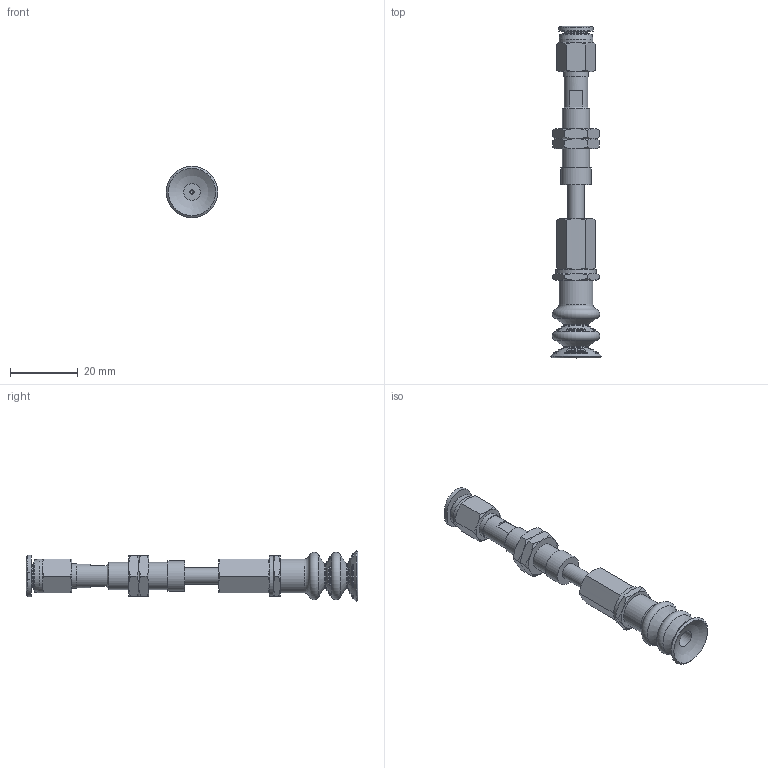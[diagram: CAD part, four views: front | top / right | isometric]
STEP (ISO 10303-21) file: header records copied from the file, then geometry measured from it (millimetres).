
FILE_DESCRIPTION(('STEP AP203'),'1');
FILE_NAME('-O.stp','2025-08-27T02:14:18',(' '),(' '),'Spatial InterOp 3D',' ',' ');
FILE_SCHEMA(('CONFIG_CONTROL_DESIGN'));
Length unit declared in the file: millimetre
Products named in the file (8): BNABPCTS-15-10-※-O; ADAPTER; NAPCTS-10-10-MBODY; Adapter_napc-15-T; Nut napc_s-15-10; NAPCTS-15-10-FBODY; BPCG-15-※; PC-C_06-M5
Assembly tree (8 placements, depth 2):
  BNABPCTS-15-10-※-O
    ADAPTER
    NAPCTS-10-10-MBODY
    Adapter_napc-15-T
    Nut napc_s-15-10  x2
    NAPCTS-15-10-FBODY
    BPCG-15-※
    PC-C_06-M5
Bounding box: 15.2 x 98.18 x 15.2 mm (x, y, z)
Volume: 5581.4 mm3; surface area: 6741.5 mm2
Topology: 7 solids, 10 shells, 271 faces, 759 edges, 484 vertices
Faces by surface type: cone 79, plane 65, sphere 58, torus 36, cylinder 26, bspline 4, revolution 3
Full cylindrical faces by diameter (mm): 1.25 x1, 4 x2, 4.134 x2, 5 x8, 7 x2, 7.188 x2, 7.4 x1, 8 x1, 8.2 x1, 9 x1, 10 x2, 12 x1
Entity records: 7819 total; most frequent: CARTESIAN_POINT 2404, DIRECTION 1087, ORIENTED_EDGE 926, AXIS2_PLACEMENT_3D 520, EDGE_CURVE 465, EDGE_LOOP 350, VERTEX_POINT 326, CIRCLE 271
